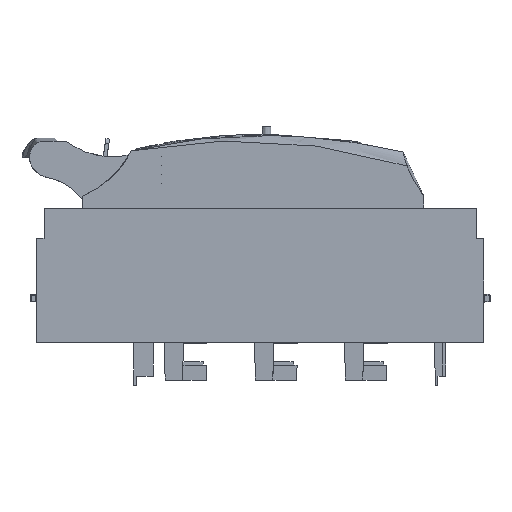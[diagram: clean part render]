
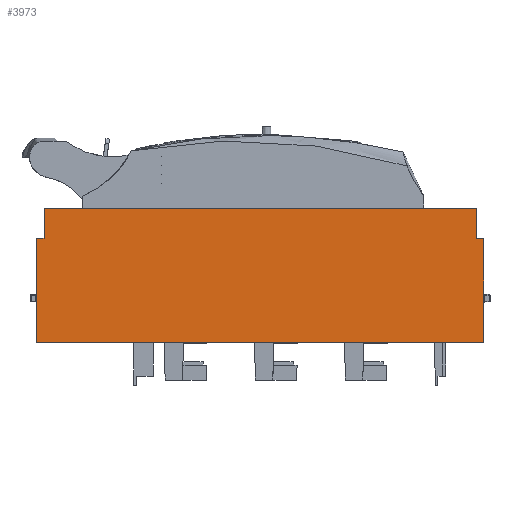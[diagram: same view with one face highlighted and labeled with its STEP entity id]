
A CAD part, front view. The second image highlights one B-rep face of the part: STEP entity #3973.
In plain terms, the highlighted planar face has unit normal (0, -1, 0).
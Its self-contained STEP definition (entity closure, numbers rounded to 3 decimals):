
#2747=FACE_OUTER_BOUND('',#5755,.T.);
#3973=ADVANCED_FACE('',(#2747),#5227,.F.);
#5227=PLANE('',#25978);
#5755=EDGE_LOOP('',(#8214,#8215,#8216,#8217,#8218,#8219,#8220,#8221));
#8214=ORIENTED_EDGE('',*,*,#16764,.F.);
#8215=ORIENTED_EDGE('',*,*,#16891,.T.);
#8216=ORIENTED_EDGE('',*,*,#17626,.F.);
#8217=ORIENTED_EDGE('',*,*,#17627,.F.);
#8218=ORIENTED_EDGE('',*,*,#17628,.T.);
#8219=ORIENTED_EDGE('',*,*,#17619,.F.);
#8220=ORIENTED_EDGE('',*,*,#17629,.T.);
#8221=ORIENTED_EDGE('',*,*,#17630,.F.);
#14405=VERTEX_POINT('',#33436);
#14406=VERTEX_POINT('',#33438);
#14530=VERTEX_POINT('',#33690);
#15212=VERTEX_POINT('',#37156);
#15213=VERTEX_POINT('',#37158);
#15217=VERTEX_POINT('',#37171);
#15218=VERTEX_POINT('',#37173);
#15219=VERTEX_POINT('',#37176);
#16764=EDGE_CURVE('',#14405,#14406,#20311,.T.);
#16891=EDGE_CURVE('',#14405,#14530,#20418,.T.);
#17619=EDGE_CURVE('',#15212,#15213,#20657,.T.);
#17626=EDGE_CURVE('',#15217,#14530,#20664,.T.);
#17627=EDGE_CURVE('',#15218,#15217,#20665,.T.);
#17628=EDGE_CURVE('',#15218,#15213,#20666,.T.);
#17629=EDGE_CURVE('',#15212,#15219,#20667,.T.);
#17630=EDGE_CURVE('',#14406,#15219,#20668,.T.);
#20311=LINE('',#33437,#22778);
#20418=LINE('',#33691,#22885);
#20657=LINE('',#37157,#23128);
#20664=LINE('',#37170,#23135);
#20665=LINE('',#37172,#23136);
#20666=LINE('',#37174,#23137);
#20667=LINE('',#37175,#23138);
#20668=LINE('',#37177,#23139);
#22778=VECTOR('',#27376,1.);
#22885=VECTOR('',#27527,1.);
#23128=VECTOR('',#27882,1.);
#23135=VECTOR('',#27893,1.);
#23136=VECTOR('',#27894,1.);
#23137=VECTOR('',#27895,1.);
#23138=VECTOR('',#27896,1.);
#23139=VECTOR('',#27897,1.);
#25978=AXIS2_PLACEMENT_3D('',#37178,#27898,#27899);
#27376=DIRECTION('',(0.,0.,1.));
#27527=DIRECTION('',(1.,0.,0.));
#27882=DIRECTION('',(1.,0.,0.));
#27893=DIRECTION('',(0.,0.,-1.));
#27894=DIRECTION('',(0.999,0.,-0.052));
#27895=DIRECTION('',(0.,0.,1.));
#27896=DIRECTION('',(0.,0.,-1.));
#27897=DIRECTION('',(0.999,0.,0.052));
#27898=DIRECTION('',(0.,1.,0.));
#27899=DIRECTION('',(0.,0.,-1.));
#33436=CARTESIAN_POINT('',(-100.5,-98.5,24.1));
#33437=CARTESIAN_POINT('',(-100.5,-98.5,34.));
#33438=CARTESIAN_POINT('',(-100.5,-98.5,93.238));
#33690=CARTESIAN_POINT('',(197.5,-98.5,24.1));
#33691=CARTESIAN_POINT('',(-67.,-98.5,24.1));
#37156=CARTESIAN_POINT('',(-95.5,-98.5,113.5));
#37157=CARTESIAN_POINT('',(153.,-98.5,113.5));
#37158=CARTESIAN_POINT('',(192.5,-98.5,113.5));
#37170=CARTESIAN_POINT('',(197.5,-98.5,34.));
#37171=CARTESIAN_POINT('',(197.5,-98.5,93.238));
#37172=CARTESIAN_POINT('',(192.5,-98.5,93.5));
#37173=CARTESIAN_POINT('',(192.5,-98.5,93.5));
#37174=CARTESIAN_POINT('',(192.5,-98.5,106.5));
#37175=CARTESIAN_POINT('',(-95.5,-98.5,106.5));
#37176=CARTESIAN_POINT('',(-95.5,-98.5,93.5));
#37177=CARTESIAN_POINT('',(-95.5,-98.5,93.5));
#37178=CARTESIAN_POINT('',(-67.,-98.5,34.));
